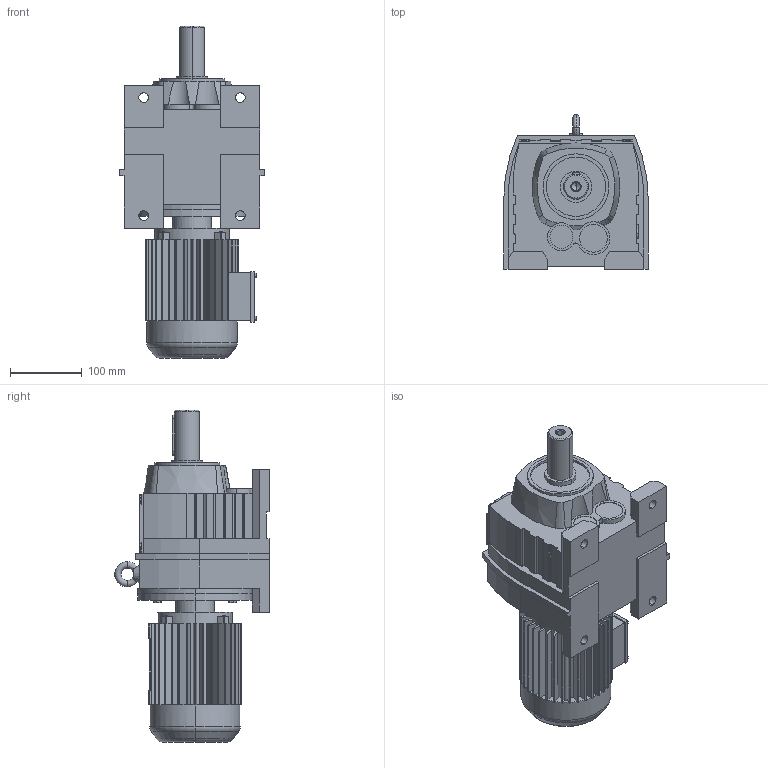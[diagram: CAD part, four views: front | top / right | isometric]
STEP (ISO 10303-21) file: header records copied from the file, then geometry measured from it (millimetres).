
FILE_DESCRIPTION(('Open CASCADE Model'),'2;1');
FILE_NAME('Open CASCADE Shape Model','2021-07-13T15:37:16',('Author'),( 'Open CASCADE'),'Open CASCADE STEP processor 6.3','Open CASCADE 6.3' ,'Unknown');
FILE_SCHEMA(('AUTOMOTIVE_DESIGN_CC2 { 1 2 10303 214 -1 1 5 4 }'));
Length unit declared in the file: millimetre
Products named in the file (3): 1_R57-Y63S; R37‵167_57.step; 萇儂_160_Y63S.step
Assembly tree (2 placements, depth 2):
  1_R57-Y63S
    R37‵167_57.step
    萇儂_160_Y63S.step
Bounding box: 202 x 216 x 464 mm (x, y, z)
Volume: 7414986.3 mm3; surface area: 464256.1 mm2
Topology: 2 solids, 2 shells, 748 faces, 1996 edges, 1289 vertices
Faces by surface type: plane 531, cylinder 187, cone 20, torus 10
Entity records: 51833 total; most frequent: CARTESIAN_POINT 13727, DIRECTION 6653, ORIENTED_EDGE 3988, PCURVE 3988, DEFINITIONAL_REPRESENTATION 3988, LINE 3731, VECTOR 3731, EDGE_CURVE 1994
